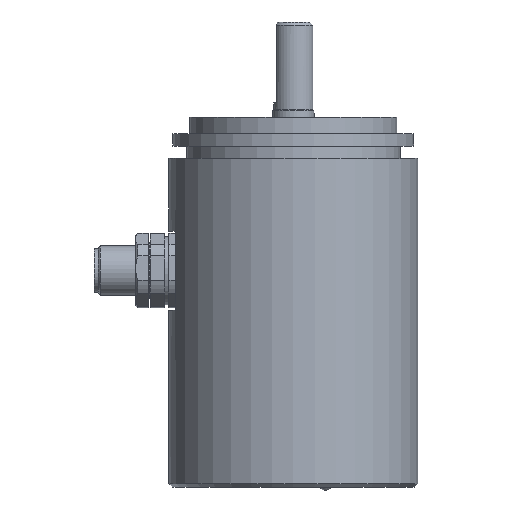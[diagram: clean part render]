
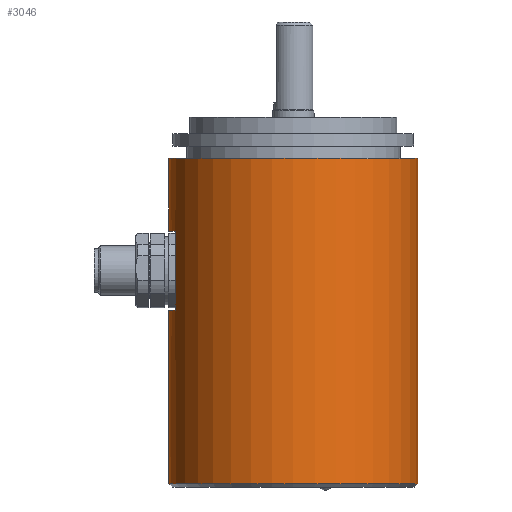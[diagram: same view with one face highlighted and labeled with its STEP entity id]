
A CAD part, left-side view. The second image highlights one B-rep face of the part: STEP entity #3046.
In plain terms, the highlighted cylindrical face has radius 30 mm (diameter 60 mm), a full revolution.
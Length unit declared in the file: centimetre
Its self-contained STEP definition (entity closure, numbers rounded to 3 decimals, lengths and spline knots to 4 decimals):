
#169=VECTOR('',#4971,1.);
#170=VECTOR('',#4974,1.);
#272=LINE('',#3926,#169);
#273=LINE('',#3930,#170);
#387=CYLINDRICAL_SURFACE('',#3353,3.);
#622=VERTEX_POINT('',#3922);
#623=VERTEX_POINT('',#3924);
#624=VERTEX_POINT('',#3925);
#625=VERTEX_POINT('',#3927);
#626=VERTEX_POINT('',#3929);
#627=VERTEX_POINT('',#3932);
#910=CIRCLE('',#3354,3.);
#911=CIRCLE('',#3355,3.);
#912=CIRCLE('',#3356,3.);
#913=CIRCLE('',#3357,3.);
#1153=EDGE_CURVE('',#622,#622,#910,.T.);
#1154=EDGE_CURVE('',#623,#624,#911,.T.);
#1155=EDGE_CURVE('',#624,#625,#272,.T.);
#1156=EDGE_CURVE('',#625,#626,#912,.T.);
#1157=EDGE_CURVE('',#626,#623,#273,.T.);
#1158=EDGE_CURVE('',#627,#627,#913,.T.);
#1545=ORIENTED_EDGE('',*,*,#1153,.F.);
#1546=ORIENTED_EDGE('',*,*,#1154,.T.);
#1547=ORIENTED_EDGE('',*,*,#1155,.T.);
#1548=ORIENTED_EDGE('',*,*,#1156,.T.);
#1549=ORIENTED_EDGE('',*,*,#1157,.T.);
#1550=ORIENTED_EDGE('',*,*,#1158,.F.);
#2246=EDGE_LOOP('',(#1545));
#2247=EDGE_LOOP('',(#1546,#1547,#1548,#1549));
#2248=EDGE_LOOP('',(#1550));
#2661=FACE_BOUND('',#2246,.T.);
#2662=FACE_BOUND('',#2247,.T.);
#2663=FACE_BOUND('',#2248,.T.);
#3046=ADVANCED_FACE('',(#2661,#2662,#2663),#387,.T.);
#3353=AXIS2_PLACEMENT_3D('',#3920,#4965,#4966);
#3354=AXIS2_PLACEMENT_3D('',#3921,#4967,#4968);
#3355=AXIS2_PLACEMENT_3D('',#3923,#4969,#4970);
#3356=AXIS2_PLACEMENT_3D('',#3928,#4972,#4973);
#3357=AXIS2_PLACEMENT_3D('',#3931,#4975,#4976);
#3920=CARTESIAN_POINT('',(0.,0.,0.2));
#3921=CARTESIAN_POINT('',(0.,0.,-7.44));
#3922=CARTESIAN_POINT('',(-3.,0.,-7.44));
#3923=CARTESIAN_POINT('',(0.,0.,-3.253));
#3924=CARTESIAN_POINT('',(-0.9488,2.846,-3.253));
#3925=CARTESIAN_POINT('',(0.9488,2.846,-3.253));
#3926=CARTESIAN_POINT('',(0.9488,2.846,-2.303));
#3927=CARTESIAN_POINT('',(0.9488,2.846,-1.353));
#3928=CARTESIAN_POINT('',(0.,0.,-1.353));
#3929=CARTESIAN_POINT('',(-0.9488,2.846,-1.353));
#3930=CARTESIAN_POINT('',(-0.9488,2.846,-2.303));
#3931=CARTESIAN_POINT('',(0.,0.,0.4));
#3932=CARTESIAN_POINT('',(0.,3.,0.4));
#4965=DIRECTION('',(0.,0.,1.));
#4966=DIRECTION('',(0.,3.,0.));
#4967=DIRECTION('',(0.,0.,-1.));
#4968=DIRECTION('',(3.,0.,0.));
#4969=DIRECTION('',(0.,0.,-1.));
#4970=DIRECTION('',(3.,0.,0.));
#4971=DIRECTION('',(0.,0.,1.));
#4972=DIRECTION('',(0.,0.,1.));
#4973=DIRECTION('',(3.,0.,0.));
#4974=DIRECTION('',(0.,0.,-1.));
#4975=DIRECTION('',(0.,0.,1.));
#4976=DIRECTION('',(0.,3.,0.));
